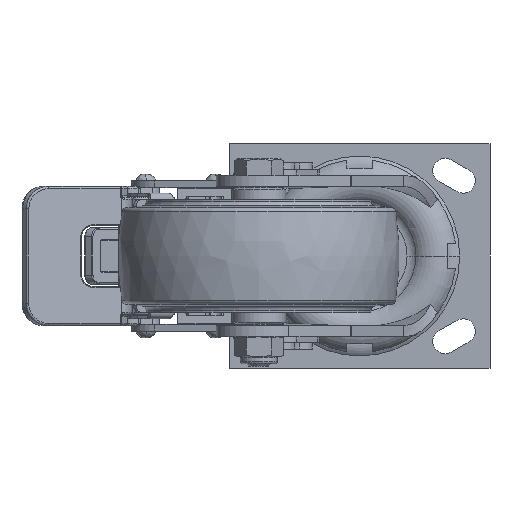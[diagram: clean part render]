
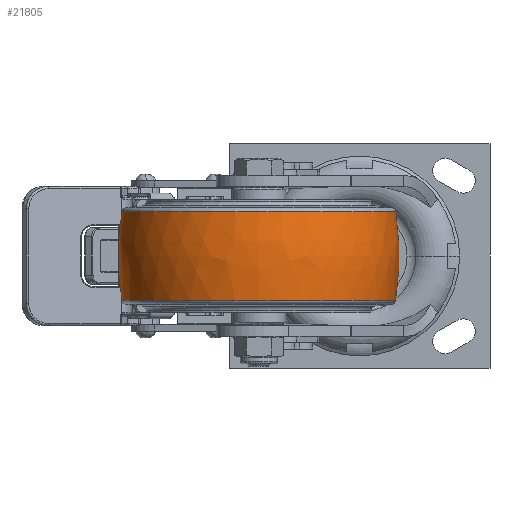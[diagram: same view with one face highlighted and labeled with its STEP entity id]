
A CAD part, front view. The second image highlights one B-rep face of the part: STEP entity #21805.
In plain terms, the highlighted free-form (B-spline) face has degree [3, 3] with [7, 4] control points.
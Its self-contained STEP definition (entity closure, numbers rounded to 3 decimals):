
#21377=CARTESIAN_POINT('',(0.,-64.241,0.));
#21378=DIRECTION('',(0.,0.,1.));
#21379=DIRECTION('',(0.156,0.988,0.));
#21380=AXIS2_PLACEMENT_3D('',#21377,#21378,#21379);
#21382=CARTESIAN_POINT('',(0.,64.241,0.));
#21383=DIRECTION('',(0.,0.,-1.));
#21384=DIRECTION('',(0.156,-0.988,0.));
#21385=AXIS2_PLACEMENT_3D('',#21382,#21383,#21384);
#21387=CARTESIAN_POINT('',(19.804,0.,0.));
#21388=DIRECTION('',(-1.,0.,0.));
#21389=DIRECTION('',(0.,1.,0.));
#21390=AXIS2_PLACEMENT_3D('',#21387,#21388,#21389);
#21402=CARTESIAN_POINT('',(-19.804,0.,0.));
#21403=DIRECTION('',(-1.,0.,0.));
#21404=DIRECTION('',(0.,1.,0.));
#21405=AXIS2_PLACEMENT_3D('',#21402,#21403,#21404);
#21612=CARTESIAN_POINT('',(19.804,60.943,0.));
#21613=VERTEX_POINT('',#21612);
#21614=CARTESIAN_POINT('',(-19.804,60.943,0.));
#21615=VERTEX_POINT('',#21614);
#21644=CARTESIAN_POINT('',(19.804,-60.943,
0.));
#21645=VERTEX_POINT('',#21644);
#21646=CARTESIAN_POINT('',(-19.804,-60.943,
0.));
#21647=VERTEX_POINT('',#21646);
#21769=CARTESIAN_POINT('',(-20.589,-60.696,
3.819));
#21770=CARTESIAN_POINT('',(-6.924,-62.942,
3.96));
#21771=CARTESIAN_POINT('',(6.924,-62.942,
3.96));
#21772=CARTESIAN_POINT('',(20.589,-60.696,
3.819));
#21773=CARTESIAN_POINT('',(-20.589,-63.046,
-33.534));
#21774=CARTESIAN_POINT('',(-6.924,-65.379,
-34.774));
#21775=CARTESIAN_POINT('',(6.924,-65.379,
-34.774));
#21776=CARTESIAN_POINT('',(20.589,-63.046,
-33.534));
#21777=CARTESIAN_POINT('',(-20.589,-37.426,
-60.816));
#21778=CARTESIAN_POINT('',(-6.924,-38.811,
-63.066));
#21779=CARTESIAN_POINT('',(6.924,-38.811,
-63.066));
#21780=CARTESIAN_POINT('',(20.589,-37.426,
-60.816));
#21781=CARTESIAN_POINT('',(-20.589,0.,
-60.816));
#21782=CARTESIAN_POINT('',(-6.924,0.,
-63.066));
#21783=CARTESIAN_POINT('',(6.924,0.,
-63.066));
#21784=CARTESIAN_POINT('',(20.589,0.,
-60.816));
#21785=CARTESIAN_POINT('',(-20.589,37.426,
-60.816));
#21786=CARTESIAN_POINT('',(-6.924,38.811,
-63.066));
#21787=CARTESIAN_POINT('',(6.924,38.811,
-63.066));
#21788=CARTESIAN_POINT('',(20.589,37.426,
-60.816));
#21789=CARTESIAN_POINT('',(-20.589,63.046,
-33.534));
#21790=CARTESIAN_POINT('',(-6.924,65.379,
-34.774));
#21791=CARTESIAN_POINT('',(6.924,65.379,
-34.774));
#21792=CARTESIAN_POINT('',(20.589,63.046,
-33.534));
#21793=CARTESIAN_POINT('',(-20.589,60.696,
3.819));
#21794=CARTESIAN_POINT('',(-6.924,62.942,
3.96));
#21795=CARTESIAN_POINT('',(6.924,62.942,3.96));
#21796=CARTESIAN_POINT('',(20.589,60.696,3.819));
#21797=(BOUNDED_SURFACE()B_SPLINE_SURFACE(3,3,((#21769,#21770,#21771,#21772),(
#21773,#21774,#21775,#21776),(#21777,#21778,#21779,#21780),(#21781,#21782,
#21783,#21784),(#21785,#21786,#21787,#21788),(#21789,#21790,#21791,#21792),(
#21793,#21794,#21795,#21796)),.UNSPECIFIED.,.F.,.F.,.F.)B_SPLINE_SURFACE_WITH_KNOTS((4,3,4),(4,4),(0.,1.,2.),(0.,1.),.UNSPECIFIED.)GEOMETRIC_REPRESENTATION_ITEM()RATIONAL_B_SPLINE_SURFACE(((1.195,1.185,
1.185,1.195),(0.944,0.935,
0.935,0.944),(0.944,0.935,
0.935,0.944),(1.195,1.185,
1.185,1.195),(0.944,0.935,
0.935,0.944),(0.944,0.935,
0.935,0.944),(1.195,1.185,
1.185,1.195)))REPRESENTATION_ITEM('')SURFACE());
#21798=ORIENTED_EDGE('',*,*,#21759,.T.);
#21800=ORIENTED_EDGE('',*,*,#21799,.T.);
#21801=ORIENTED_EDGE('',*,*,#21762,.F.);
#21802=ORIENTED_EDGE('',*,*,#21709,.F.);
#21803=EDGE_LOOP('',(#21798,#21800,#21801,#21802));
#21804=FACE_OUTER_BOUND('',#21803,.F.);
#21381=CIRCLE('',#21380,126.741);
#21386=CIRCLE('',#21385,126.741);
#21391=CIRCLE('',#21390,60.943);
#21406=CIRCLE('',#21405,60.943);
#21709=EDGE_CURVE('',#21613,#21645,#21391,.T.);
#21759=EDGE_CURVE('',#21613,#21615,#21381,.T.);
#21762=EDGE_CURVE('',#21645,#21647,#21386,.T.);
#21799=EDGE_CURVE('',#21615,#21647,#21406,.T.);
#21805=ADVANCED_FACE('',(#21804),#21797,.T.);
